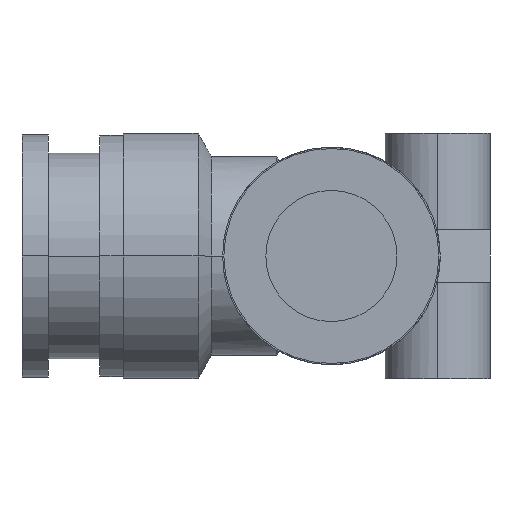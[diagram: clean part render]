
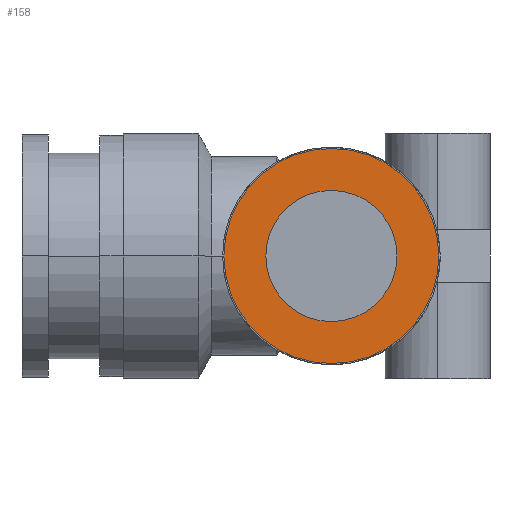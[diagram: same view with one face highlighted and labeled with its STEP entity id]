
A CAD part, left-side view. The second image highlights one B-rep face of the part: STEP entity #158.
In plain terms, the highlighted planar face has unit normal (-1, 0, 0).
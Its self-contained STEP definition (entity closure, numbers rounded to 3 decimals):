
#158 = ADVANCED_FACE( '', ( #339, #340 ), #341, .T. );
#339 = FACE_BOUND( '', #521, .T. );
#340 = FACE_OUTER_BOUND( '', #522, .T. );
#341 = PLANE( '', #523 );
#521 = EDGE_LOOP( '', ( #1165, #1166 ) );
#522 = EDGE_LOOP( '', ( #1167, #1168 ) );
#523 = AXIS2_PLACEMENT_3D( '', #1169, #1170, #1171 );
#1165 = ORIENTED_EDGE( '', *, *, #1275, .T. );
#1166 = ORIENTED_EDGE( '', *, *, #1265, .T. );
#1167 = ORIENTED_EDGE( '', *, *, #1175, .T. );
#1168 = ORIENTED_EDGE( '', *, *, #1369, .T. );
#1169 = CARTESIAN_POINT( '', ( -23.1, 4.1, 0. ) );
#1170 = DIRECTION( '', ( -1., 0., 0. ) );
#1171 = DIRECTION( '', ( 0., 1., 0. ) );
#1175 = EDGE_CURVE( '', #1371, #1375, #1377, .T. );
#1265 = EDGE_CURVE( '', #1549, #1546, #1550, .T. );
#1275 = EDGE_CURVE( '', #1546, #1549, #1565, .T. );
#1369 = EDGE_CURVE( '', #1375, #1371, #1695, .T. );
#1371 = VERTEX_POINT( '', #1697 );
#1375 = VERTEX_POINT( '', #1702 );
#1377 = CIRCLE( '', #1705, 8.2 );
#1546 = VERTEX_POINT( '', #1982 );
#1549 = VERTEX_POINT( '', #1986 );
#1550 = CIRCLE( '', #1987, 5. );
#1565 = CIRCLE( '', #2005, 5. );
#1695 = CIRCLE( '', #2407, 8.2 );
#1697 = CARTESIAN_POINT( '', ( -23.1, 8.2, 0. ) );
#1702 = CARTESIAN_POINT( '', ( -23.1, -8.2, 0. ) );
#1705 = AXIS2_PLACEMENT_3D( '', #2413, #2414, #2415 );
#1982 = CARTESIAN_POINT( '', ( -23.1, 5., 0. ) );
#1986 = CARTESIAN_POINT( '', ( -23.1, -5., 0. ) );
#1987 = AXIS2_PLACEMENT_3D( '', #2579, #2580, #2581 );
#2005 = AXIS2_PLACEMENT_3D( '', #2603, #2604, #2605 );
#2407 = AXIS2_PLACEMENT_3D( '', #2771, #2772, #2773 );
#2413 = CARTESIAN_POINT( '', ( -23.1, 0., 0. ) );
#2414 = DIRECTION( '', ( -1., 0., 0. ) );
#2415 = DIRECTION( '', ( 0., 1., 0. ) );
#2579 = CARTESIAN_POINT( '', ( -23.1, 0., 0. ) );
#2580 = DIRECTION( '', ( 1., 0., 0. ) );
#2581 = DIRECTION( '', ( 0., 1., 0. ) );
#2603 = CARTESIAN_POINT( '', ( -23.1, 0., 0. ) );
#2604 = DIRECTION( '', ( 1., 0., 0. ) );
#2605 = DIRECTION( '', ( 0., 1., 0. ) );
#2771 = CARTESIAN_POINT( '', ( -23.1, 0., 0. ) );
#2772 = DIRECTION( '', ( -1., 0., 0. ) );
#2773 = DIRECTION( '', ( 0., 1., 0. ) );
